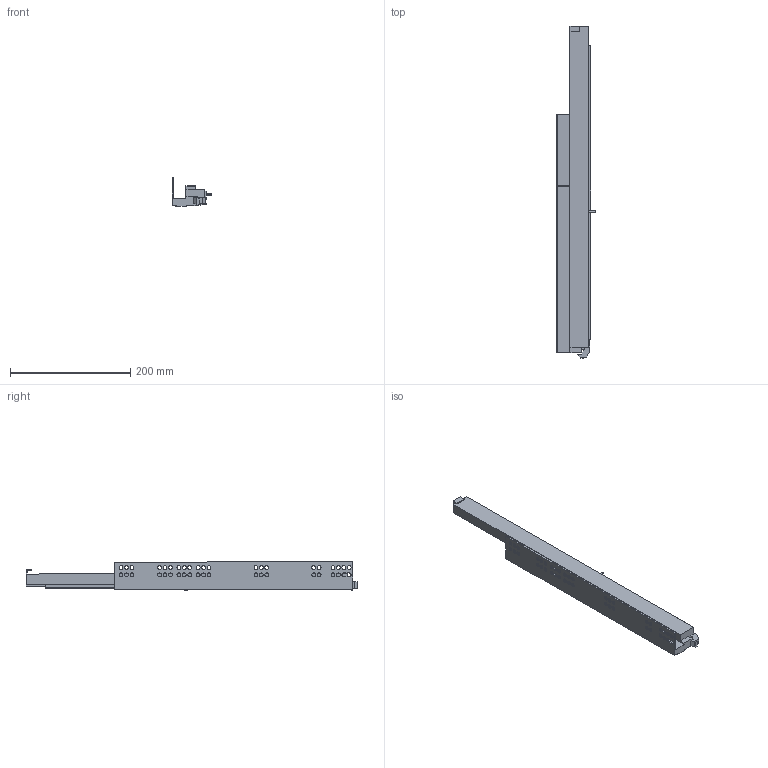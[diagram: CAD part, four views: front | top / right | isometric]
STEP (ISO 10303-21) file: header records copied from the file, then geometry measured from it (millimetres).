
FILE_DESCRIPTION (( 'STEP AP203' ), '1' );
FILE_NAME ('IMOS_Dynapro_Tipmatic_D51_NL_0_LI.STEP', '2013-03-22T12:06:57', ( 'Grass GmbH' ), ( 'Grass GmbH' ), 'SwSTEP 2.0', 'SolidWorks 2012', '' );
FILE_SCHEMA (( 'CONFIG_CONTROL_DESIGN' ));
Length unit declared in the file: millimetre
Products named in the file (1): IMOS_Dynapro_Tipmatic_D51_NL_0_LI
Bounding box: 65.92 x 551.55 x 47.53 mm (x, y, z)
Volume: 513264 mm3; surface area: 125456.3 mm2
Topology: 1 solids, 1 shells, 189 faces, 545 edges, 363 vertices
Faces by surface type: plane 98, cylinder 91
Entity records: 6494 total; most frequent: DIRECTION 1107, CARTESIAN_POINT 1098, ORIENTED_EDGE 1090, EDGE_CURVE 545, AXIS2_PLACEMENT_3D 372, VERTEX_POINT 363, LINE 363, VECTOR 363
